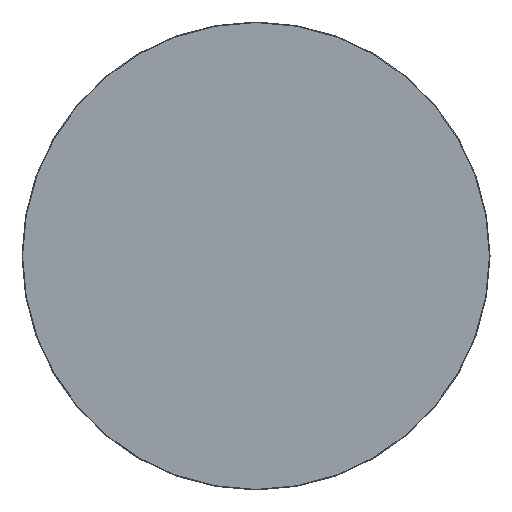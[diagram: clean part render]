
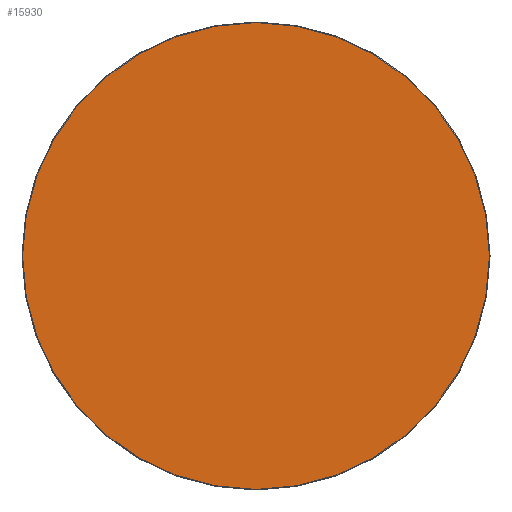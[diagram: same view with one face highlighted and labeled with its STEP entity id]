
A CAD part, top view. The second image highlights one B-rep face of the part: STEP entity #15930.
In plain terms, the highlighted planar face has unit normal (0, 0, 1).
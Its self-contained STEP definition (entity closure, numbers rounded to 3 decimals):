
#15855=CARTESIAN_POINT('',(0.,0.,20.));
#15856=DIRECTION('',(1.,0.,0.));
#15857=DIRECTION('',(0.,0.,1.));
#15858=AXIS2_PLACEMENT_3D('',#15855,#15857,#15856);
#15859=PLANE('',#15858);
#15860=CARTESIAN_POINT('',(-0.5,-548.5,20.));
#15861=VERTEX_POINT('',#15860);
#15862=CARTESIAN_POINT('',(0.5,-548.5,20.));
#15863=VERTEX_POINT('',#15862);
#15864=CARTESIAN_POINT('',(-0.5,-548.5,20.));
#15865=DIRECTION('',(1.,0.,0.));
#15866=VECTOR('',#15865,1.);
#15867=LINE('',#15864,#15866);
#15868=EDGE_CURVE('',#15861,#15863,#15867,.T.);
#15869=ORIENTED_EDGE('E105',*,*,#15868,.T.);
#15870=CARTESIAN_POINT('',(548.5,-0.5,20.));
#15871=VERTEX_POINT('',#15870);
#15872=CARTESIAN_POINT('',(0.5,-0.5,20.));
#15873=DIRECTION('',(0.,-1.,0.));
#15874=DIRECTION('',(0.,0.,1.));
#15875=AXIS2_PLACEMENT_3D('',#15872,#15874,#15873);
#15876=CIRCLE('',#15875,548.);
#15877=EDGE_CURVE('',#15863,#15871,#15876,.T.);
#15878=ORIENTED_EDGE('E107',*,*,#15877,.T.);
#15879=CARTESIAN_POINT('',(548.5,0.5,20.));
#15880=VERTEX_POINT('',#15879);
#15881=CARTESIAN_POINT('',(548.5,-0.5,20.));
#15882=DIRECTION('',(0.,1.,0.));
#15883=VECTOR('',#15882,1.);
#15884=LINE('',#15881,#15883);
#15885=EDGE_CURVE('',#15871,#15880,#15884,.T.);
#15886=ORIENTED_EDGE('E109',*,*,#15885,.T.);
#15887=CARTESIAN_POINT('',(0.5,548.5,20.));
#15888=VERTEX_POINT('',#15887);
#15889=CARTESIAN_POINT('',(0.5,0.5,20.));
#15890=DIRECTION('',(1.,0.,0.));
#15891=DIRECTION('',(0.,0.,1.));
#15892=AXIS2_PLACEMENT_3D('',#15889,#15891,#15890);
#15893=CIRCLE('',#15892,548.);
#15894=EDGE_CURVE('',#15880,#15888,#15893,.T.);
#15895=ORIENTED_EDGE('E111',*,*,#15894,.T.);
#15896=CARTESIAN_POINT('',(-0.5,548.5,20.));
#15897=VERTEX_POINT('',#15896);
#15898=CARTESIAN_POINT('',(0.5,548.5,20.));
#15899=DIRECTION('',(-1.,0.,0.));
#15900=VECTOR('',#15899,1.);
#15901=LINE('',#15898,#15900);
#15902=EDGE_CURVE('',#15888,#15897,#15901,.T.);
#15903=ORIENTED_EDGE('E113',*,*,#15902,.T.);
#15904=CARTESIAN_POINT('',(-548.5,0.5,20.));
#15905=VERTEX_POINT('',#15904);
#15906=CARTESIAN_POINT('',(-0.5,0.5,20.));
#15907=DIRECTION('',(0.,1.,0.));
#15908=DIRECTION('',(0.,0.,1.));
#15909=AXIS2_PLACEMENT_3D('',#15906,#15908,#15907);
#15910=CIRCLE('',#15909,548.);
#15911=EDGE_CURVE('',#15897,#15905,#15910,.T.);
#15912=ORIENTED_EDGE('E115',*,*,#15911,.T.);
#15913=CARTESIAN_POINT('',(-548.5,-0.5,20.));
#15914=VERTEX_POINT('',#15913);
#15915=CARTESIAN_POINT('',(-548.5,0.5,20.));
#15916=DIRECTION('',(0.,-1.,0.));
#15917=VECTOR('',#15916,1.);
#15918=LINE('',#15915,#15917);
#15919=EDGE_CURVE('',#15905,#15914,#15918,.T.);
#15920=ORIENTED_EDGE('E117',*,*,#15919,.T.);
#15921=CARTESIAN_POINT('',(-0.5,-0.5,20.));
#15922=DIRECTION('',(-1.,0.,0.));
#15923=DIRECTION('',(0.,0.,1.));
#15924=AXIS2_PLACEMENT_3D('',#15921,#15923,#15922);
#15925=CIRCLE('',#15924,548.);
#15926=EDGE_CURVE('',#15914,#15861,#15925,.T.);
#15927=ORIENTED_EDGE('E119',*,*,#15926,.T.);
#15928=EDGE_LOOP('',(#15869,#15878,#15886,#15895,#15903,#15912,#15920,#15927));
#15929=FACE_OUTER_BOUND('',#15928,.T.);
#15930=ADVANCED_FACE('F2',(#15929),#15859,.T.);
